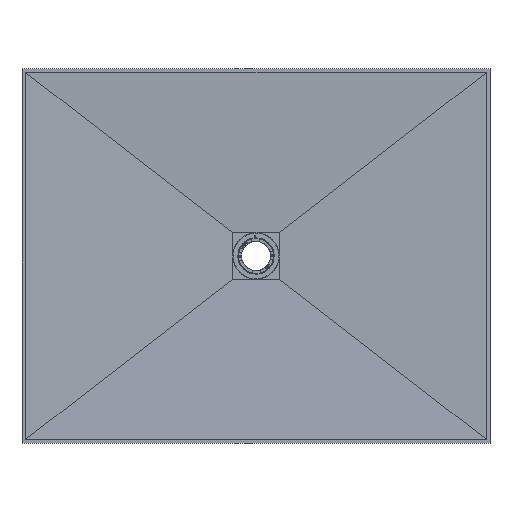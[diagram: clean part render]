
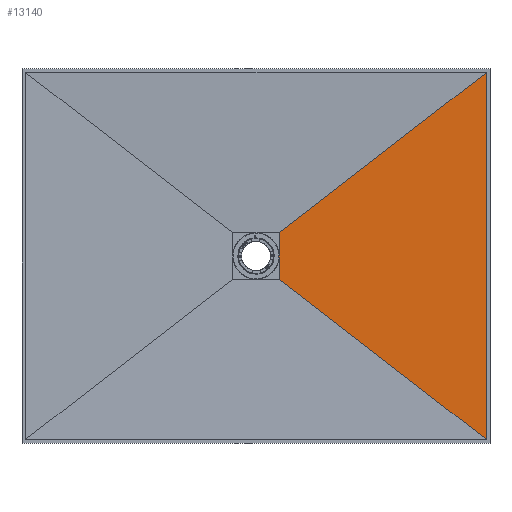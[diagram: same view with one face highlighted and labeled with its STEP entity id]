
A CAD part, top view. The second image highlights one B-rep face of the part: STEP entity #13140.
In plain terms, the highlighted planar face has unit normal (-0.026, 0, 1).
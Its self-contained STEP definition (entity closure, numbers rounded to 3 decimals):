
#2348=FACE_OUTER_BOUND('',#3093,.T.);
#3093=EDGE_LOOP('',(#8808,#8809,#8810,#8811));
#3902=LINE('',#18662,#4523);
#3908=LINE('',#18674,#4529);
#3910=LINE('',#18677,#4531);
#3911=LINE('',#18679,#4532);
#4523=VECTOR('',#15362,10.);
#4529=VECTOR('',#15370,10.);
#4531=VECTOR('',#15374,10.);
#4532=VECTOR('',#15377,10.);
#5139=VERTEX_POINT('',#18659);
#5140=VERTEX_POINT('',#18661);
#5143=VERTEX_POINT('',#18668);
#5145=VERTEX_POINT('',#18672);
#6605=EDGE_CURVE('',#5139,#5140,#3902,.F.);
#6611=EDGE_CURVE('',#5143,#5145,#3908,.F.);
#6613=EDGE_CURVE('',#5139,#5143,#3910,.T.);
#6614=EDGE_CURVE('',#5140,#5145,#3911,.T.);
#8808=ORIENTED_EDGE('',*,*,#6605,.F.);
#8809=ORIENTED_EDGE('',*,*,#6613,.T.);
#8810=ORIENTED_EDGE('',*,*,#6611,.T.);
#8811=ORIENTED_EDGE('',*,*,#6614,.F.);
#13070=PLANE('',#13978);
#13140=ADVANCED_FACE('',(#2348),#13070,.F.);
#13978=AXIS2_PLACEMENT_3D('',#18678,#15375,#15376);
#15362=DIRECTION('',(0.,1.,0.));
#15370=DIRECTION('',(0.,1.,0.));
#15374=DIRECTION('',(-0.791,-0.612,-0.021));
#15375=DIRECTION('center_axis',(0.026,0.,
-1.));
#15376=DIRECTION('ref_axis',(-1.,0.,-0.026));
#15377=DIRECTION('',(-0.791,0.612,-0.021));
#18659=CARTESIAN_POINT('',(746.284,421.979,20.));
#18661=CARTESIAN_POINT('',(746.284,-771.779,20.));
#18662=CARTESIAN_POINT('',(746.284,127.25,20.));
#18668=CARTESIAN_POINT('',(73.484,-98.421,2.5));
#18672=CARTESIAN_POINT('',(73.484,-251.379,2.5));
#18674=CARTESIAN_POINT('',(73.484,123.55,2.5));
#18677=CARTESIAN_POINT('',(277.665,59.51,7.811));
#18678=CARTESIAN_POINT('Origin',(746.267,422.,20.));
#18679=CARTESIAN_POINT('',(457.537,-548.438,12.489));
